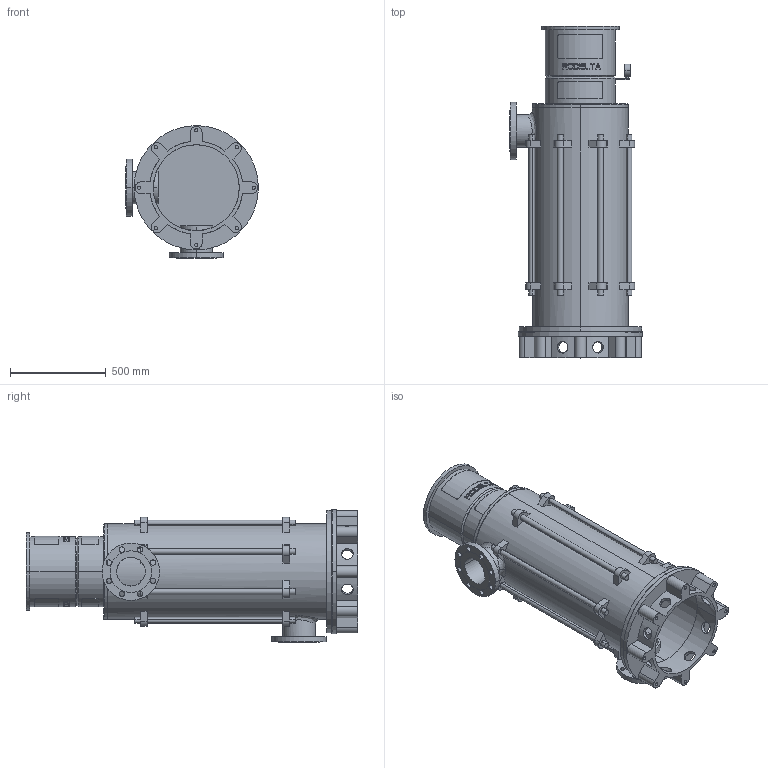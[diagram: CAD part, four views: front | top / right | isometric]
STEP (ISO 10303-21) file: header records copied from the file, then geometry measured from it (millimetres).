
FILE_DESCRIPTION((''),'2;1');
FILE_NAME('LS6_5TR_0GR_PN25_TOT_30KW','2025-10-24T12:16:05',('Lyritlocal'),(''),'CREO PARAMETRIC BY PTC INC, 2022014','CREO PARAMETRIC BY PTC INC, 2022014','');
FILE_SCHEMA(('CONFIG_CONTROL_DESIGN'));
Length unit declared in the file: millimetre
Products named in the file (1): LS6_5TR_0GR_PN25_TOT_30KW
Bounding box: 695 x 1735 x 695 mm (x, y, z)
Volume: 52844187.7 mm3; surface area: 7339794.9 mm2
Topology: 3 solids, 11 shells, 732 faces, 1891 edges, 1258 vertices
Faces by surface type: plane 438, cylinder 274, cone 12, bspline 8
Entity records: 24206 total; most frequent: CARTESIAN_POINT 6378, ORIENTED_EDGE 3750, DIRECTION 3537, EDGE_CURVE 1891, AXIS2_PLACEMENT_3D 1341, VERTEX_POINT 1258, EDGE_LOOP 893, VECTOR 855
